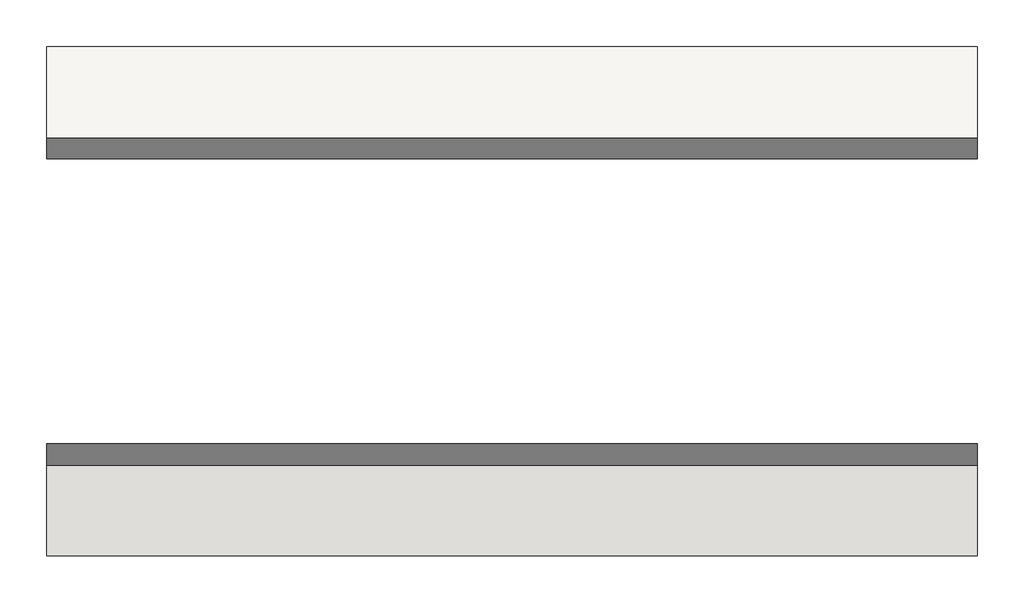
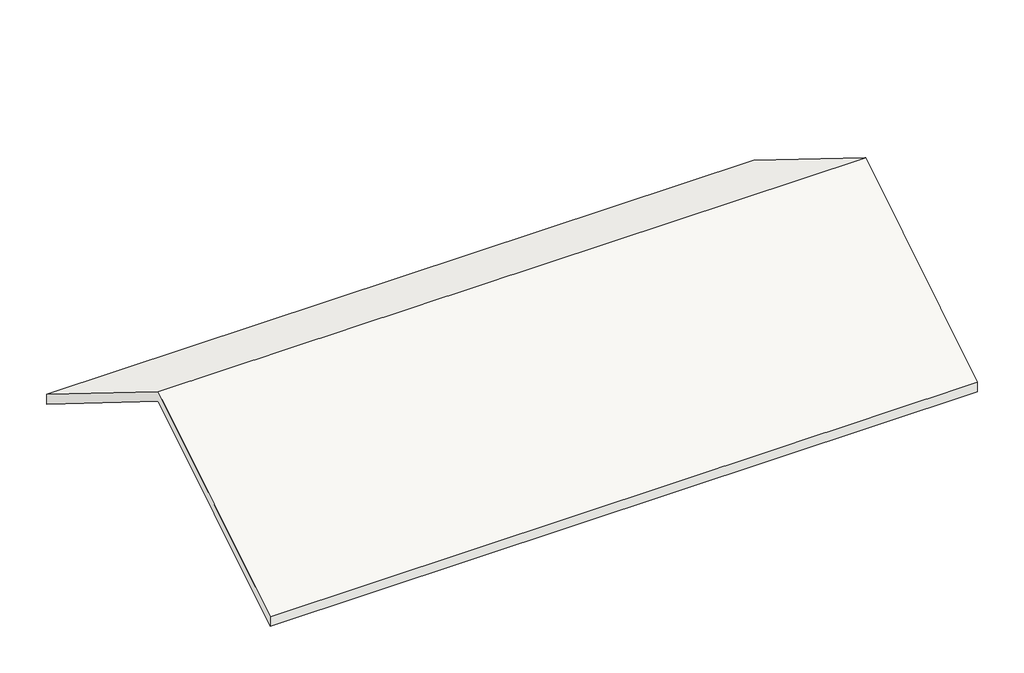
# One storey: 1 roof.
"""IFC4 building model written with IfcOpenShell, lengths in millimetres."""

from ifc_helpers import new_model, si_unit, frame, origin, place, context, project, spatial, polyline, outline, extrude, element, save

model = new_model("IFC4")

# Units and contexts
model_context = context("Model", 3, world=origin())
ifc_project = project(units=[si_unit("LENGTHUNIT", "METRE", prefix="MILLI")], contexts=[model_context])

# Site, building, storey
site = spatial("IfcSite", under=ifc_project)
building = spatial("IfcBuilding", under=site)
storey = spatial("IfcBuildingStorey", under=building, Name="屋簷", Elevation=7700.0)

# Roof
placement = place(None, origin())
element("IfcRoof", 1, ObjectType="一般 - 20cm", at=placement, inside=storey, context=model_context, shape_type="SweptSolid", body=[
    extrude(outline(polyline([(-541.2980254, 10700.0000001), (3968.226796, 7900.0000003), (3968.226796, 7664.583201), (-541.2980254, 10464.5832009), (-5050.8228469, 7664.583201), (-5050.8228469, 7900.0000003), (-541.2980254, 10700.0000001)])), frame((-8105.9037023, 0.0, 0.0), z_axis=(1.0, 0.0, 0.0), x_axis=(0.0, 1.0, 0.0)), (0.0, 0.0, 1.0), 16480.9503571),
])

save(model, "model.ifc")
